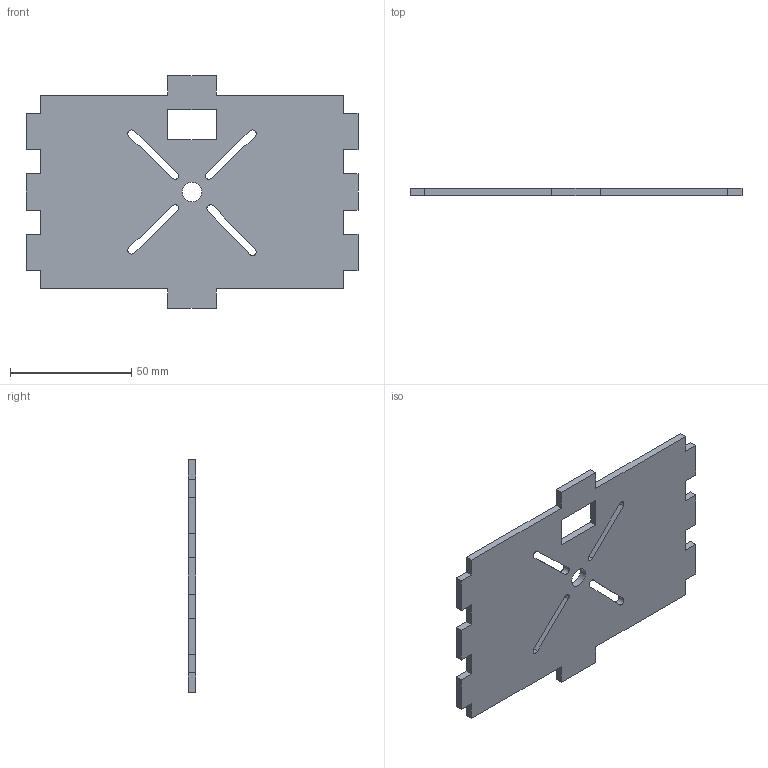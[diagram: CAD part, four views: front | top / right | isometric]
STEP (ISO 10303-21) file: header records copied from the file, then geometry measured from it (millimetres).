
FILE_DESCRIPTION(/* description */ (''),/* implementation_level */ '2;1');
FILE_NAME(/* name */ 'Motor Mount 2 v18.step',/* time_stamp */ '2023-09-02T21:53:26+03:00',/* author */ (''),/* organization */ (''),/* preprocessor_version */ 'ST-DEVELOPER v20',/* originating_system */ 'Autodesk Translation Framework v12.9.0.99',/* authorisation */ '');
FILE_SCHEMA (('AUTOMOTIVE_DESIGN { 1 0 10303 214 3 1 1 }'));
Length unit declared in the file: millimetre
Products named in the file (1): Motor Mount 2
Bounding box: 137 x 3 x 96 mm (x, y, z)
Volume: 30694.4 mm3; surface area: 22988.4 mm2
Topology: 1 solids, 1 shells, 59 faces, 171 edges, 114 vertices
Faces by surface type: plane 50, cylinder 9
Full cylindrical faces by diameter (mm): 8 x1
Entity records: 1980 total; most frequent: CARTESIAN_POINT 345, ORIENTED_EDGE 342, DIRECTION 309, EDGE_CURVE 171, LINE 153, VECTOR 153, VERTEX_POINT 114, AXIS2_PLACEMENT_3D 78
